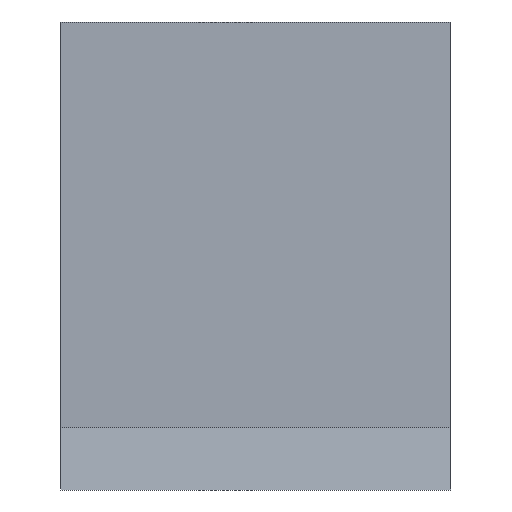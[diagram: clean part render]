
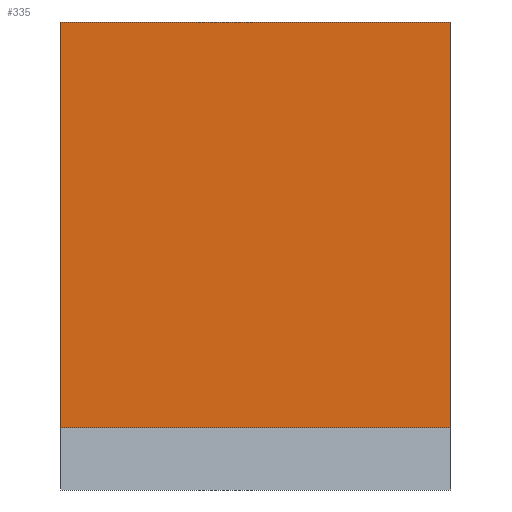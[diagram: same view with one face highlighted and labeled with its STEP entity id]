
A CAD part, front view. The second image highlights one B-rep face of the part: STEP entity #335.
In plain terms, the highlighted planar face has unit normal (0, -1, 0).
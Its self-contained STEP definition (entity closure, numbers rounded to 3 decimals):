
#32 = PLANE('',#33);
#33 = AXIS2_PLACEMENT_3D('',#34,#35,#36);
#34 = CARTESIAN_POINT('',(-40.,-6.,-70.));
#35 = DIRECTION('',(1.,-0.,-0.));
#36 = DIRECTION('',(0.,0.,-1.));
#85 = VERTEX_POINT('',#86);
#86 = CARTESIAN_POINT('',(-40.,-9.,-62.));
#100 = PLANE('',#101);
#101 = AXIS2_PLACEMENT_3D('',#102,#103,#104);
#102 = CARTESIAN_POINT('',(-40.,-10.5,-70.));
#103 = DIRECTION('',(0.,0.983,-0.184));
#104 = DIRECTION('',(0.,-0.184,-0.983));
#112 = EDGE_CURVE('',#85,#113,#115,.T.);
#113 = VERTEX_POINT('',#114);
#114 = CARTESIAN_POINT('',(-40.,-9.,-10.));
#115 = SURFACE_CURVE('',#116,(#120,#127),.PCURVE_S1.);
#116 = LINE('',#117,#118);
#117 = CARTESIAN_POINT('',(-40.,-9.,-70.));
#118 = VECTOR('',#119,1.);
#119 = DIRECTION('',(0.,0.,1.));
#120 = PCURVE('',#32,#121);
#121 = DEFINITIONAL_REPRESENTATION('',(#122),#126);
#122 = LINE('',#123,#124);
#123 = CARTESIAN_POINT('',(-0.,-3.));
#124 = VECTOR('',#125,1.);
#125 = DIRECTION('',(-1.,0.));
#126 = ( GEOMETRIC_REPRESENTATION_CONTEXT(2) 
PARAMETRIC_REPRESENTATION_CONTEXT() REPRESENTATION_CONTEXT('2D SPACE',''
  ) );
#127 = PCURVE('',#128,#133);
#128 = PLANE('',#129);
#129 = AXIS2_PLACEMENT_3D('',#130,#131,#132);
#130 = CARTESIAN_POINT('',(-40.,-9.,-70.));
#131 = DIRECTION('',(0.,-1.,0.));
#132 = DIRECTION('',(0.,0.,-1.));
#133 = DEFINITIONAL_REPRESENTATION('',(#134),#138);
#134 = LINE('',#135,#136);
#135 = CARTESIAN_POINT('',(-0.,0.));
#136 = VECTOR('',#137,1.);
#137 = DIRECTION('',(-1.,0.));
#138 = ( GEOMETRIC_REPRESENTATION_CONTEXT(2) 
PARAMETRIC_REPRESENTATION_CONTEXT() REPRESENTATION_CONTEXT('2D SPACE',''
  ) );
#154 = PLANE('',#155);
#155 = AXIS2_PLACEMENT_3D('',#156,#157,#158);
#156 = CARTESIAN_POINT('',(-40.,-6.,-10.));
#157 = DIRECTION('',(0.,0.,1.));
#158 = DIRECTION('',(-1.,0.,0.));
#194 = VERTEX_POINT('',#195);
#195 = CARTESIAN_POINT('',(10.,-9.,-10.));
#209 = PLANE('',#210);
#210 = AXIS2_PLACEMENT_3D('',#211,#212,#213);
#211 = CARTESIAN_POINT('',(10.,-6.,-70.));
#212 = DIRECTION('',(1.,-0.,-0.));
#213 = DIRECTION('',(0.,0.,-1.));
#221 = EDGE_CURVE('',#113,#194,#222,.T.);
#222 = SURFACE_CURVE('',#223,(#227,#234),.PCURVE_S1.);
#223 = LINE('',#224,#225);
#224 = CARTESIAN_POINT('',(-40.,-9.,-10.));
#225 = VECTOR('',#226,1.);
#226 = DIRECTION('',(1.,0.,-0.));
#227 = PCURVE('',#154,#228);
#228 = DEFINITIONAL_REPRESENTATION('',(#229),#233);
#229 = LINE('',#230,#231);
#230 = CARTESIAN_POINT('',(-0.,3.));
#231 = VECTOR('',#232,1.);
#232 = DIRECTION('',(-1.,0.));
#233 = ( GEOMETRIC_REPRESENTATION_CONTEXT(2) 
PARAMETRIC_REPRESENTATION_CONTEXT() REPRESENTATION_CONTEXT('2D SPACE',''
  ) );
#234 = PCURVE('',#128,#235);
#235 = DEFINITIONAL_REPRESENTATION('',(#236),#240);
#236 = LINE('',#237,#238);
#237 = CARTESIAN_POINT('',(-60.,0.));
#238 = VECTOR('',#239,1.);
#239 = DIRECTION('',(-0.,1.));
#240 = ( GEOMETRIC_REPRESENTATION_CONTEXT(2) 
PARAMETRIC_REPRESENTATION_CONTEXT() REPRESENTATION_CONTEXT('2D SPACE',''
  ) );
#292 = VERTEX_POINT('',#293);
#293 = CARTESIAN_POINT('',(10.,-9.,-62.));
#314 = EDGE_CURVE('',#292,#194,#315,.T.);
#315 = SURFACE_CURVE('',#316,(#320,#327),.PCURVE_S1.);
#316 = LINE('',#317,#318);
#317 = CARTESIAN_POINT('',(10.,-9.,-70.));
#318 = VECTOR('',#319,1.);
#319 = DIRECTION('',(0.,0.,1.));
#320 = PCURVE('',#209,#321);
#321 = DEFINITIONAL_REPRESENTATION('',(#322),#326);
#322 = LINE('',#323,#324);
#323 = CARTESIAN_POINT('',(-0.,-3.));
#324 = VECTOR('',#325,1.);
#325 = DIRECTION('',(-1.,0.));
#326 = ( GEOMETRIC_REPRESENTATION_CONTEXT(2) 
PARAMETRIC_REPRESENTATION_CONTEXT() REPRESENTATION_CONTEXT('2D SPACE',''
  ) );
#327 = PCURVE('',#128,#328);
#328 = DEFINITIONAL_REPRESENTATION('',(#329),#333);
#329 = LINE('',#330,#331);
#330 = CARTESIAN_POINT('',(-0.,50.));
#331 = VECTOR('',#332,1.);
#332 = DIRECTION('',(-1.,0.));
#333 = ( GEOMETRIC_REPRESENTATION_CONTEXT(2) 
PARAMETRIC_REPRESENTATION_CONTEXT() REPRESENTATION_CONTEXT('2D SPACE',''
  ) );
#335 = ADVANCED_FACE('',(#336),#128,.T.);
#336 = FACE_BOUND('',#337,.F.);
#337 = EDGE_LOOP('',(#338,#359,#360,#361));
#338 = ORIENTED_EDGE('',*,*,#339,.F.);
#339 = EDGE_CURVE('',#85,#292,#340,.T.);
#340 = SURFACE_CURVE('',#341,(#345,#352),.PCURVE_S1.);
#341 = LINE('',#342,#343);
#342 = CARTESIAN_POINT('',(-40.,-9.,-62.));
#343 = VECTOR('',#344,1.);
#344 = DIRECTION('',(1.,-0.,-0.));
#345 = PCURVE('',#128,#346);
#346 = DEFINITIONAL_REPRESENTATION('',(#347),#351);
#347 = LINE('',#348,#349);
#348 = CARTESIAN_POINT('',(-8.,0.));
#349 = VECTOR('',#350,1.);
#350 = DIRECTION('',(-0.,1.));
#351 = ( GEOMETRIC_REPRESENTATION_CONTEXT(2) 
PARAMETRIC_REPRESENTATION_CONTEXT() REPRESENTATION_CONTEXT('2D SPACE',''
  ) );
#352 = PCURVE('',#100,#353);
#353 = DEFINITIONAL_REPRESENTATION('',(#354),#358);
#354 = LINE('',#355,#356);
#355 = CARTESIAN_POINT('',(-8.139,0.));
#356 = VECTOR('',#357,1.);
#357 = DIRECTION('',(-0.,-1.));
#358 = ( GEOMETRIC_REPRESENTATION_CONTEXT(2) 
PARAMETRIC_REPRESENTATION_CONTEXT() REPRESENTATION_CONTEXT('2D SPACE',''
  ) );
#359 = ORIENTED_EDGE('',*,*,#112,.T.);
#360 = ORIENTED_EDGE('',*,*,#221,.T.);
#361 = ORIENTED_EDGE('',*,*,#314,.F.);
